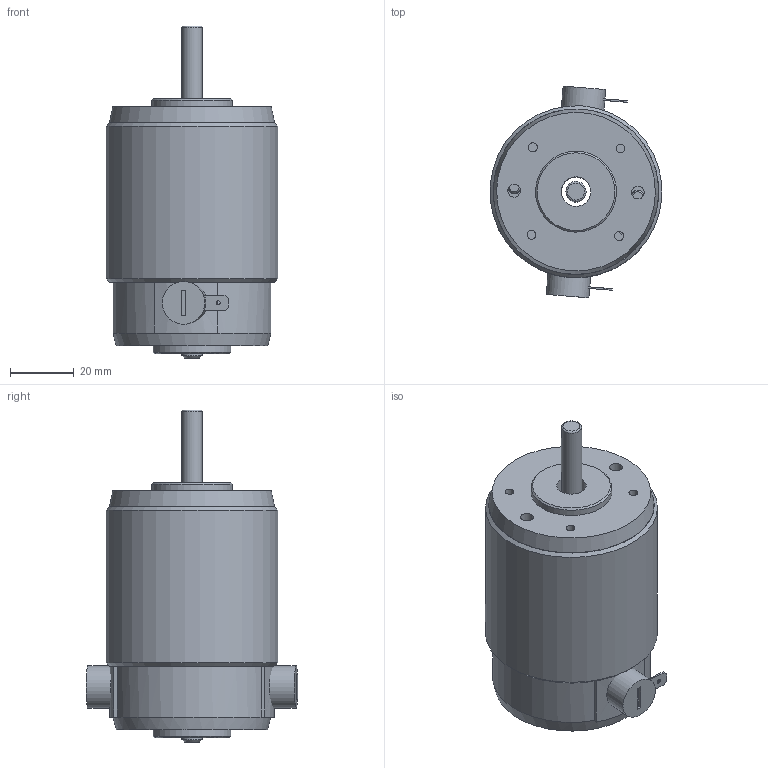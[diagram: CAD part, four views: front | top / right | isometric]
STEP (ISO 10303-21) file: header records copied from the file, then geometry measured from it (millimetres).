
FILE_DESCRIPTION((''),'2;1');
FILE_NAME('D:\연구개발부2팀 1파트\10_진행업무\3D\RM5_SERIES\RM51_TYPE.stp','2014-06-23T10:40:33',('song'),(''),'Autodesk Inventor 2011','Autodesk Inventor 2011','');
FILE_SCHEMA(('AUTOMOTIVE_DESIGN { 1 0 10303 214 1 1 1 1 }'));
Length unit declared in the file: millimetre
Products named in the file (11): RM51_TYPE; RM5_FRONT; RM5_PIPE_pi54XL50; RM5_TYPE_REAR_HOUSING; RM5_REAR; BRUSH_HOLDER_ASSY; BRUSH_HOLDER_ASSY_MIR; RM5_BRUSH_COVER_RED; RM5_BRUSH_COVER_BRACK; RM51_SHAFT; AS 1427 Z - 미터 M4 x 50
Assembly tree (11 placements, depth 3):
  RM51_TYPE
    RM5_FRONT
    RM5_PIPE_pi54XL50
    RM5_TYPE_REAR_HOUSING
      RM5_REAR
      BRUSH_HOLDER_ASSY
      BRUSH_HOLDER_ASSY_MIR
      RM5_BRUSH_COVER_RED
      RM5_BRUSH_COVER_BRACK
    RM51_SHAFT
    AS 1427 Z - 미터 M4 x 50  x2
Bounding box: 53.83 x 66.44 x 104.2 mm (x, y, z)
Volume: 66726.5 mm3; surface area: 38169.1 mm2
Topology: 10 solids, 10 shells, 189 faces, 459 edges, 300 vertices
Faces by surface type: plane 96, cylinder 43, cone 41, torus 9
Full cylindrical faces by diameter (mm): 1.3 x2, 2.8 x7, 3.571 x2, 4 x4, 4.2 x2, 5.76 x3, 6.336 x1, 7 x2, 9.3 x2, 11 x4, 13.4 x2, 24.5 x1, 25.4 x1, 46 x2, 49.6 x1, 54 x1
Entity records: 4639 total; most frequent: CARTESIAN_POINT 1103, DIRECTION 694, ORIENTED_EDGE 564, AXIS2_PLACEMENT_3D 289, EDGE_CURVE 282, EDGE_LOOP 238, VERTEX_POINT 212, FACE_OUTER_BOUND 148
